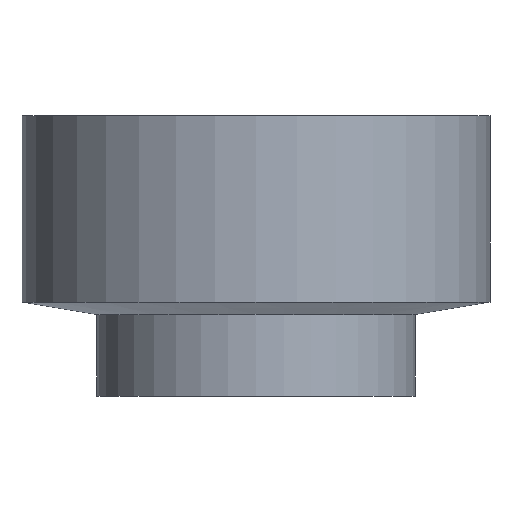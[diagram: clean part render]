
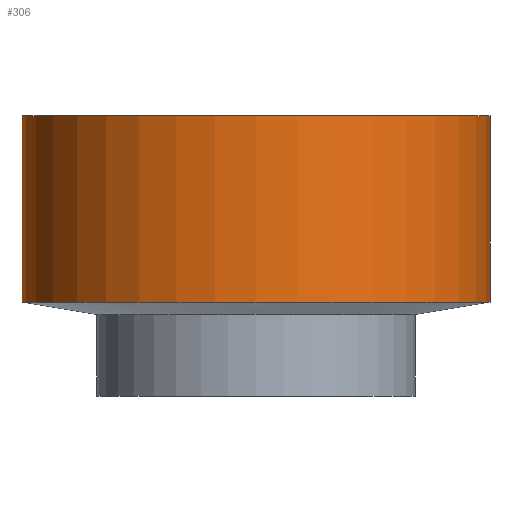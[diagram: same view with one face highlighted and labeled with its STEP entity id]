
A CAD part, front view. The second image highlights one B-rep face of the part: STEP entity #306.
In plain terms, the highlighted cylindrical face has radius 72.5 mm (diameter 145 mm), a partial arc.
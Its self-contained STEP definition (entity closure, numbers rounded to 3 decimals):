
#2 = VERTEX_POINT ( 'NONE', #88 ) ;
#9 = VERTEX_POINT ( 'NONE', #97 ) ;
#11 = DIRECTION ( 'NONE',  ( 0., 0., -1. ) ) ;
#16 = CARTESIAN_POINT ( 'NONE',  ( 72.5, 0., 86.85 ) ) ;
#32 = AXIS2_PLACEMENT_3D ( 'NONE', #33, #324, #152 ) ;
#33 = CARTESIAN_POINT ( 'NONE',  ( 0., 0., 86.85 ) ) ;
#40 = DIRECTION ( 'NONE',  ( 1., 0., 0. ) ) ;
#61 = EDGE_CURVE ( 'NONE', #2, #9, #440, .T. ) ;
#88 = CARTESIAN_POINT ( 'NONE',  ( 72.5, 0., 29.15 ) ) ;
#97 = CARTESIAN_POINT ( 'NONE',  ( -72.5, 0., 29.15 ) ) ;
#101 = VERTEX_POINT ( 'NONE', #142 ) ;
#105 = LINE ( 'NONE', #16, #302 ) ;
#106 = DIRECTION ( 'NONE',  ( 0., 0., -1. ) ) ;
#124 = ORIENTED_EDGE ( 'NONE', *, *, #61, .F. ) ;
#142 = CARTESIAN_POINT ( 'NONE',  ( -72.5, 0., 86.85 ) ) ;
#151 = LINE ( 'NONE', #315, #359 ) ;
#152 = DIRECTION ( 'NONE',  ( -1., 0., 0. ) ) ;
#169 = AXIS2_PLACEMENT_3D ( 'NONE', #437, #280, #40 ) ;
#185 = CIRCLE ( 'NONE', #169, 72.5 ) ;
#230 = ORIENTED_EDGE ( 'NONE', *, *, #298, .F. ) ;
#235 = EDGE_CURVE ( 'NONE', #101, #9, #151, .T. ) ;
#237 = CYLINDRICAL_SURFACE ( 'NONE', #32, 72.5 ) ;
#240 = CARTESIAN_POINT ( 'NONE',  ( 72.5, 0., 86.85 ) ) ;
#250 = EDGE_CURVE ( 'NONE', #403, #2, #105, .T. ) ;
#270 = AXIS2_PLACEMENT_3D ( 'NONE', #290, #11, #292 ) ;
#280 = DIRECTION ( 'NONE',  ( 0., 0., 1. ) ) ;
#290 = CARTESIAN_POINT ( 'NONE',  ( 0., 0., 29.15 ) ) ;
#292 = DIRECTION ( 'NONE',  ( -1., 0., 0. ) ) ;
#298 = EDGE_CURVE ( 'NONE', #101, #403, #185, .T. ) ;
#301 = DIRECTION ( 'NONE',  ( 0., 0., -1. ) ) ;
#302 = VECTOR ( 'NONE', #301, 1000. ) ;
#306 = ADVANCED_FACE ( 'NONE', ( #518 ), #237, .T. ) ;
#315 = CARTESIAN_POINT ( 'NONE',  ( -72.5, 0., 86.85 ) ) ;
#324 = DIRECTION ( 'NONE',  ( 0., 0., -1. ) ) ;
#359 = VECTOR ( 'NONE', #106, 1000. ) ;
#362 = ORIENTED_EDGE ( 'NONE', *, *, #250, .F. ) ;
#403 = VERTEX_POINT ( 'NONE', #240 ) ;
#437 = CARTESIAN_POINT ( 'NONE',  ( 0., 0., 86.85 ) ) ;
#440 = CIRCLE ( 'NONE', #270, 72.5 ) ;
#449 = EDGE_LOOP ( 'NONE', ( #362, #230, #480, #124 ) ) ;
#480 = ORIENTED_EDGE ( 'NONE', *, *, #235, .T. ) ;
#518 = FACE_OUTER_BOUND ( 'NONE', #449, .T. ) ;
